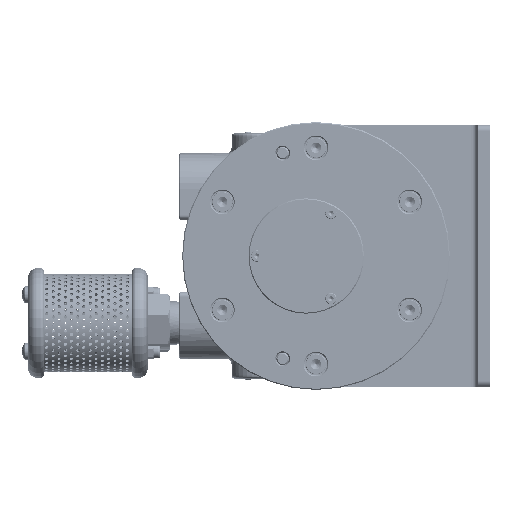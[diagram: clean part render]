
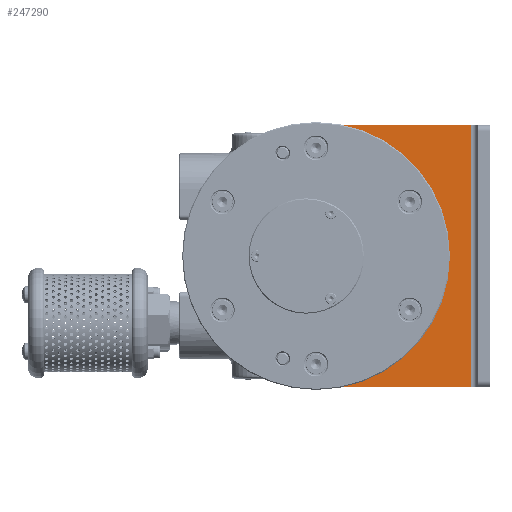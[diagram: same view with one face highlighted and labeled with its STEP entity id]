
A CAD part, left-side view. The second image highlights one B-rep face of the part: STEP entity #247290.
In plain terms, the highlighted planar face has unit normal (-1, 0, 0).
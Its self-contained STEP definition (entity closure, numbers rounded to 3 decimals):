
#561 = CARTESIAN_POINT ( 'NONE',  ( 62.1, -75.45, -63.65 ) ) ;
#978 = DIRECTION ( 'NONE',  ( -1., 0., 0. ) ) ;
#2261 = VERTEX_POINT ( 'NONE', #16201 ) ;
#3108 = CARTESIAN_POINT ( 'NONE',  ( 62.1, -4.95, -95.837 ) ) ;
#4334 = CARTESIAN_POINT ( 'NONE',  ( 62.1, -84.45, 63.65 ) ) ;
#5823 = DIRECTION ( 'NONE',  ( 0., 0., -1. ) ) ;
#10167 = ORIENTED_EDGE ( 'NONE', *, *, #236395, .F. ) ;
#13016 = AXIS2_PLACEMENT_3D ( 'NONE', #238898, #96286, #259302 ) ;
#15057 = CARTESIAN_POINT ( 'NONE',  ( 62.1, -84.45, -63.65 ) ) ;
#16201 = CARTESIAN_POINT ( 'NONE',  ( 62.1, -36.236, -3.378 ) ) ;
#17417 = CARTESIAN_POINT ( 'NONE',  ( 62.1, -75.45, 63.65 ) ) ;
#19235 = CARTESIAN_POINT ( 'NONE',  ( 62.1, -7.95, 38.687 ) ) ;
#19408 = CARTESIAN_POINT ( 'NONE',  ( 62.1, -4.95, 60.65 ) ) ;
#24530 = CARTESIAN_POINT ( 'NONE',  ( 62.1, -84.45, -63.65 ) ) ;
#25148 = CIRCLE ( 'NONE', #120444, 4.3 ) ;
#25673 = AXIS2_PLACEMENT_3D ( 'NONE', #115485, #34406, #92319 ) ;
#28618 = LINE ( 'NONE', #3108, #130691 ) ;
#29671 = ORIENTED_EDGE ( 'NONE', *, *, #185036, .F. ) ;
#30183 = ORIENTED_EDGE ( 'NONE', *, *, #82358, .T. ) ;
#34406 = DIRECTION ( 'NONE',  ( -1., 0., 0. ) ) ;
#34909 = ORIENTED_EDGE ( 'NONE', *, *, #262865, .F. ) ;
#35947 = EDGE_LOOP ( 'NONE', ( #262330, #34909 ) ) ;
#36335 = DIRECTION ( 'NONE',  ( 0., 0., -1. ) ) ;
#36930 = DIRECTION ( 'NONE',  ( 0., 0., 1. ) ) ;
#39426 = LINE ( 'NONE', #123825, #249786 ) ;
#44791 = CARTESIAN_POINT ( 'NONE',  ( 62.1, -20.65, 43.994 ) ) ;
#45425 = VECTOR ( 'NONE', #225091, 1000. ) ;
#46692 = DIRECTION ( 'NONE',  ( 0., 0., 1. ) ) ;
#47646 = CARTESIAN_POINT ( 'NONE',  ( 62.1, -32.549, 0. ) ) ;
#48642 = DIRECTION ( 'NONE',  ( 0., 0.676, -0.737 ) ) ;
#49540 = CARTESIAN_POINT ( 'NONE',  ( 62.1, -20.65, -48.294 ) ) ;
#59282 = AXIS2_PLACEMENT_3D ( 'NONE', #220345, #159678, #117935 ) ;
#64189 = FACE_OUTER_BOUND ( 'NONE', #90852, .T. ) ;
#65201 = DIRECTION ( 'NONE',  ( 0., 0., 1. ) ) ;
#68623 = CARTESIAN_POINT ( 'NONE',  ( 62.1, -5.738, -36.66 ) ) ;
#68916 = ORIENTED_EDGE ( 'NONE', *, *, #234625, .F. ) ;
#69237 = ORIENTED_EDGE ( 'NONE', *, *, #163237, .T. ) ;
#71258 = CARTESIAN_POINT ( 'NONE',  ( 62.1, -5.738, 36.66 ) ) ;
#72984 = EDGE_CURVE ( 'NONE', #82100, #2261, #164172, .T. ) ;
#75385 = AXIS2_PLACEMENT_3D ( 'NONE', #44791, #125022, #227516 ) ;
#80776 = ORIENTED_EDGE ( 'NONE', *, *, #201088, .T. ) ;
#81120 = CARTESIAN_POINT ( 'NONE',  ( 62.1, -7.95, 60.65 ) ) ;
#82100 = VERTEX_POINT ( 'NONE', #220151 ) ;
#82358 = EDGE_CURVE ( 'NONE', #259458, #82100, #39426, .T. ) ;
#83410 = CARTESIAN_POINT ( 'NONE',  ( 62.1, -20.65, -43.994 ) ) ;
#84208 = VERTEX_POINT ( 'NONE', #218140 ) ;
#89353 = CIRCLE ( 'NONE', #75385, 4.3 ) ;
#90852 = EDGE_LOOP ( 'NONE', ( #80776, #90880, #29671, #231084, #30183, #154036, #215222, #133233, #111680, #69237, #10167, #220972 ) ) ;
#90880 = ORIENTED_EDGE ( 'NONE', *, *, #145673, .T. ) ;
#92319 = DIRECTION ( 'NONE',  ( 0., 0., 1. ) ) ;
#96286 = DIRECTION ( 'NONE',  ( -1., 0., 0. ) ) ;
#99659 = LINE ( 'NONE', #561, #45425 ) ;
#100289 = CIRCLE ( 'NONE', #162794, 3. ) ;
#106178 = CARTESIAN_POINT ( 'NONE',  ( 62.1, -4.95, -95.837 ) ) ;
#109292 = EDGE_CURVE ( 'NONE', #207233, #204331, #169242, .T. ) ;
#110770 = CIRCLE ( 'NONE', #13016, 3. ) ;
#111680 = ORIENTED_EDGE ( 'NONE', *, *, #234447, .F. ) ;
#115485 = CARTESIAN_POINT ( 'NONE',  ( 62.1, -20.65, -43.994 ) ) ;
#117935 = DIRECTION ( 'NONE',  ( 0., 0., -1. ) ) ;
#119941 = VERTEX_POINT ( 'NONE', #175072 ) ;
#120444 = AXIS2_PLACEMENT_3D ( 'NONE', #83410, #144890, #226080 ) ;
#121256 = VERTEX_POINT ( 'NONE', #241622 ) ;
#121701 = DIRECTION ( 'NONE',  ( 0., 0., -1. ) ) ;
#123825 = CARTESIAN_POINT ( 'NONE',  ( 62.1, -91.628, -57.072 ) ) ;
#125022 = DIRECTION ( 'NONE',  ( -1., 0., 0. ) ) ;
#126024 = CARTESIAN_POINT ( 'NONE',  ( 62.1, -20.65, 43.994 ) ) ;
#128864 = EDGE_CURVE ( 'NONE', #84208, #139239, #99659, .T. ) ;
#129325 = CARTESIAN_POINT ( 'NONE',  ( 62.1, -7.95, -63.65 ) ) ;
#130691 = VECTOR ( 'NONE', #36930, 1000. ) ;
#132890 = VERTEX_POINT ( 'NONE', #186291 ) ;
#133233 = ORIENTED_EDGE ( 'NONE', *, *, #146821, .T. ) ;
#137941 = DIRECTION ( 'NONE',  ( 1., 0., 0. ) ) ;
#139239 = VERTEX_POINT ( 'NONE', #17417 ) ;
#141297 = DIRECTION ( 'NONE',  ( -1., 0., 0. ) ) ;
#141486 = CARTESIAN_POINT ( 'NONE',  ( 62.1, -4.95, -60.65 ) ) ;
#142027 = VERTEX_POINT ( 'NONE', #150760 ) ;
#144890 = DIRECTION ( 'NONE',  ( -1., 0., 0. ) ) ;
#145673 = EDGE_CURVE ( 'NONE', #121256, #149269, #100289, .T. ) ;
#146482 = DIRECTION ( 'NONE',  ( -1., 0., 0. ) ) ;
#146821 = EDGE_CURVE ( 'NONE', #148269, #132890, #110770, .T. ) ;
#148269 = VERTEX_POINT ( 'NONE', #68623 ) ;
#149269 = VERTEX_POINT ( 'NONE', #19408 ) ;
#150760 = CARTESIAN_POINT ( 'NONE',  ( 62.1, -20.65, 39.694 ) ) ;
#153815 = VECTOR ( 'NONE', #48642, 1000. ) ;
#154036 = ORIENTED_EDGE ( 'NONE', *, *, #72984, .T. ) ;
#154872 = VERTEX_POINT ( 'NONE', #141486 ) ;
#159678 = DIRECTION ( 'NONE',  ( -1., 0., 0. ) ) ;
#160705 = AXIS2_PLACEMENT_3D ( 'NONE', #15057, #137941, #36335 ) ;
#162794 = AXIS2_PLACEMENT_3D ( 'NONE', #81120, #978, #242510 ) ;
#163237 = EDGE_CURVE ( 'NONE', #154872, #223115, #195893, .T. ) ;
#163521 = LINE ( 'NONE', #24530, #237019 ) ;
#164172 = CIRCLE ( 'NONE', #218639, 5. ) ;
#167040 = DIRECTION ( 'NONE',  ( 0., 1., 0. ) ) ;
#169242 = CIRCLE ( 'NONE', #25673, 4.3 ) ;
#170343 = CARTESIAN_POINT ( 'NONE',  ( 62.1, -20.65, -39.694 ) ) ;
#174832 = VERTEX_POINT ( 'NONE', #175419 ) ;
#175072 = CARTESIAN_POINT ( 'NONE',  ( 62.1, -20.65, 48.294 ) ) ;
#175419 = CARTESIAN_POINT ( 'NONE',  ( 62.1, -4.95, 38.687 ) ) ;
#183094 = AXIS2_PLACEMENT_3D ( 'NONE', #126024, #146482, #46692 ) ;
#185036 = EDGE_CURVE ( 'NONE', #174832, #149269, #195452, .T. ) ;
#186291 = CARTESIAN_POINT ( 'NONE',  ( 62.1, -4.95, -38.687 ) ) ;
#187975 = CIRCLE ( 'NONE', #183094, 4.3 ) ;
#192718 = EDGE_LOOP ( 'NONE', ( #205468, #68916 ) ) ;
#195452 = LINE ( 'NONE', #106178, #204969 ) ;
#195893 = CIRCLE ( 'NONE', #59282, 3. ) ;
#201088 = EDGE_CURVE ( 'NONE', #139239, #121256, #234242, .T. ) ;
#204331 = VERTEX_POINT ( 'NONE', #49540 ) ;
#204370 = EDGE_CURVE ( 'NONE', #2261, #148269, #217563, .T. ) ;
#204969 = VECTOR ( 'NONE', #65201, 1000. ) ;
#205468 = ORIENTED_EDGE ( 'NONE', *, *, #213564, .F. ) ;
#205634 = VECTOR ( 'NONE', #208412, 1000. ) ;
#207233 = VERTEX_POINT ( 'NONE', #170343 ) ;
#208412 = DIRECTION ( 'NONE',  ( 0., 1., 0. ) ) ;
#213564 = EDGE_CURVE ( 'NONE', #119941, #142027, #89353, .T. ) ;
#215222 = ORIENTED_EDGE ( 'NONE', *, *, #204370, .T. ) ;
#217563 = LINE ( 'NONE', #234000, #153815 ) ;
#218140 = CARTESIAN_POINT ( 'NONE',  ( 62.1, -75.45, -63.65 ) ) ;
#218256 = EDGE_CURVE ( 'NONE', #174832, #259458, #254768, .T. ) ;
#218639 = AXIS2_PLACEMENT_3D ( 'NONE', #47646, #229450, #5823 ) ;
#219069 = PLANE ( 'NONE',  #160705 ) ;
#220151 = CARTESIAN_POINT ( 'NONE',  ( 62.1, -36.236, 3.378 ) ) ;
#220321 = AXIS2_PLACEMENT_3D ( 'NONE', #19235, #141297, #121701 ) ;
#220345 = CARTESIAN_POINT ( 'NONE',  ( 62.1, -7.95, -60.65 ) ) ;
#220972 = ORIENTED_EDGE ( 'NONE', *, *, #128864, .T. ) ;
#223115 = VERTEX_POINT ( 'NONE', #129325 ) ;
#225091 = DIRECTION ( 'NONE',  ( 0., 0., 1. ) ) ;
#226080 = DIRECTION ( 'NONE',  ( 0., 0., 1. ) ) ;
#226297 = DIRECTION ( 'NONE',  ( 0., -0.676, -0.737 ) ) ;
#226885 = FACE_BOUND ( 'NONE', #35947, .T. ) ;
#227516 = DIRECTION ( 'NONE',  ( 0., 0., 1. ) ) ;
#229450 = DIRECTION ( 'NONE',  ( 1., 0., 0. ) ) ;
#230173 = FACE_BOUND ( 'NONE', #192718, .T. ) ;
#231084 = ORIENTED_EDGE ( 'NONE', *, *, #218256, .T. ) ;
#234000 = CARTESIAN_POINT ( 'NONE',  ( 62.1, -28.22, -12.125 ) ) ;
#234242 = LINE ( 'NONE', #4334, #205634 ) ;
#234447 = EDGE_CURVE ( 'NONE', #154872, #132890, #28618, .T. ) ;
#234625 = EDGE_CURVE ( 'NONE', #142027, #119941, #187975, .T. ) ;
#236395 = EDGE_CURVE ( 'NONE', #84208, #223115, #163521, .T. ) ;
#237019 = VECTOR ( 'NONE', #167040, 1000. ) ;
#238898 = CARTESIAN_POINT ( 'NONE',  ( 62.1, -7.95, -38.687 ) ) ;
#241622 = CARTESIAN_POINT ( 'NONE',  ( 62.1, -7.95, 63.65 ) ) ;
#242510 = DIRECTION ( 'NONE',  ( 0., 0., -1. ) ) ;
#247290 = ADVANCED_FACE ( 'NONE', ( #230173, #226885, #64189 ), #219069, .F. ) ;
#249786 = VECTOR ( 'NONE', #226297, 1000. ) ;
#254768 = CIRCLE ( 'NONE', #220321, 3. ) ;
#259302 = DIRECTION ( 'NONE',  ( 0., 0., -1. ) ) ;
#259458 = VERTEX_POINT ( 'NONE', #71258 ) ;
#262330 = ORIENTED_EDGE ( 'NONE', *, *, #109292, .F. ) ;
#262865 = EDGE_CURVE ( 'NONE', #204331, #207233, #25148, .T. ) ;
